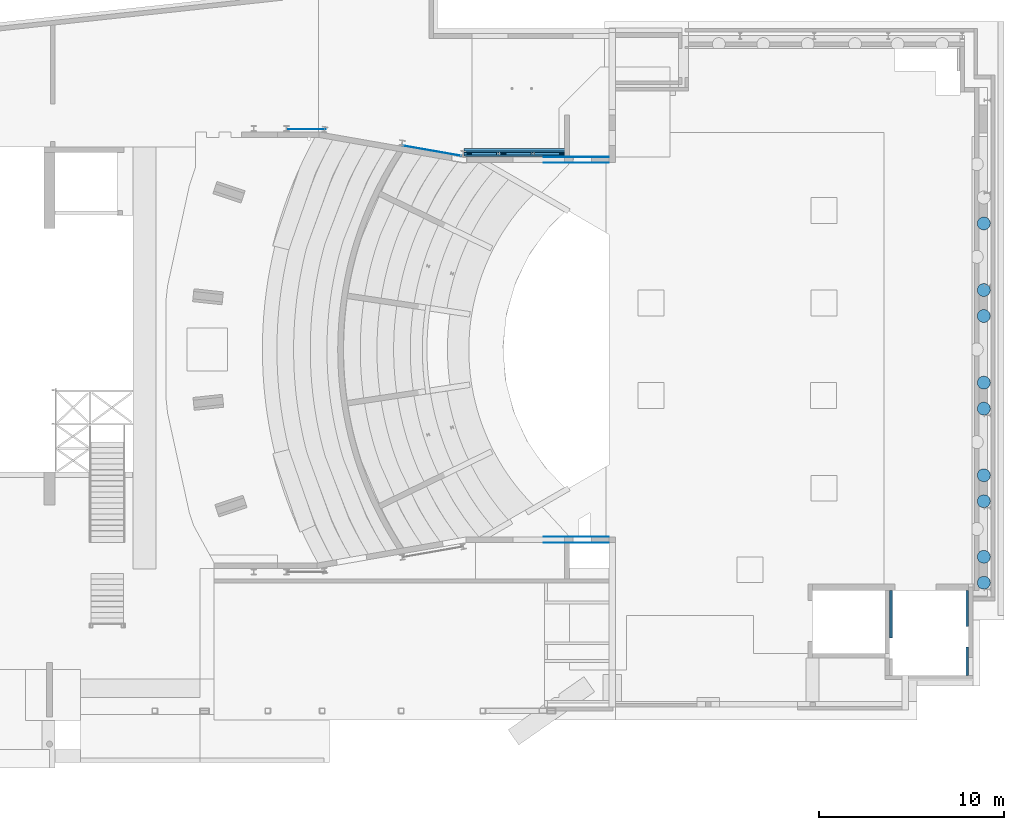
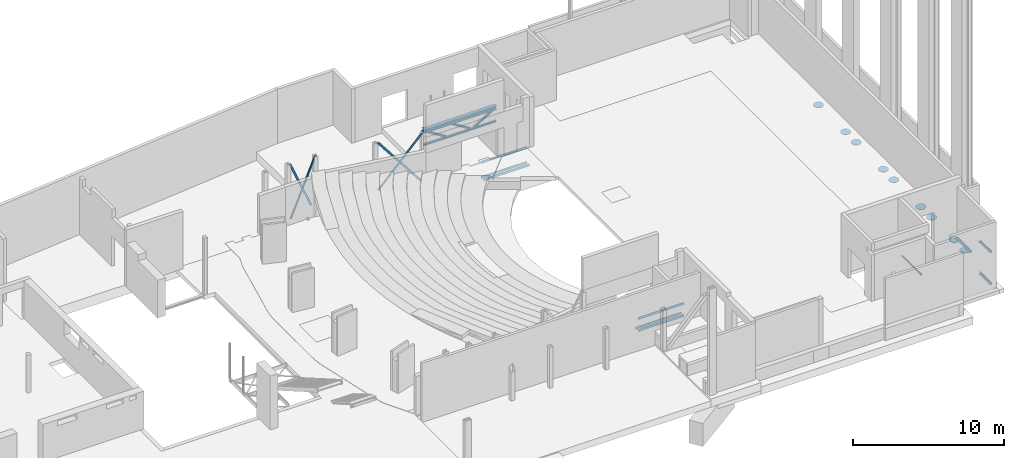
# One storey, part 17 of 34: 28 beams.
"""IFC2X3 building model written with IfcOpenShell, lengths in millimetres."""

from ifc_helpers import new_model, entity, si_unit, converted_unit, derived_unit, direction, frame, frame_2d, origin, origin_2d_with_axis, place, context, subcontext, project, spatial, polyline, circle_curve, parameter, trimmed, segment, composite_curve, rectangle, circle, i_section, outline, extrude, clip, halfspace, bounded_halfspace, source, transform, mapped, material, material_list, type_object, type_shapes, element, save


model = new_model("IFC2X3")

# Units and contexts
model_context = context("Model", 3, precision=0.01, world=origin(), true_north=direction((6.12303176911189e-17, 1.0)))
body_context = subcontext(model_context, "Body", "Model", "MODEL_VIEW")
ifc_project = project(units=[si_unit("LENGTHUNIT", "METRE", prefix="MILLI"), si_unit("AREAUNIT", "SQUARE_METRE", prefix="MILLI"), si_unit("VOLUMEUNIT", "CUBIC_METRE"), converted_unit("PLANEANGLEUNIT", "DEGREE", entity("IfcRatioMeasure", 0.0174532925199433), si_unit("PLANEANGLEUNIT", "RADIAN"), dimensions=[0, 0, 0, 0, 0, 0, 0]), si_unit("MASSUNIT", "GRAM", prefix="KILO"), derived_unit("MASSDENSITYUNIT", [(si_unit("MASSUNIT", "GRAM", prefix="KILO"), 1), (si_unit("LENGTHUNIT", "METRE"), -3)]), derived_unit("MOMENTOFINERTIAUNIT", [(si_unit("LENGTHUNIT", "METRE"), 4)]), si_unit("TIMEUNIT", "SECOND"), si_unit("FREQUENCYUNIT", "HERTZ"), si_unit("THERMODYNAMICTEMPERATUREUNIT", "DEGREE_CELSIUS"), derived_unit("THERMALTRANSMITTANCEUNIT", [(si_unit("MASSUNIT", "GRAM", prefix="KILO"), 1), (si_unit("THERMODYNAMICTEMPERATUREUNIT", "KELVIN"), -1), (si_unit("TIMEUNIT", "SECOND"), -3)]), derived_unit("VOLUMETRICFLOWRATEUNIT", [(si_unit("LENGTHUNIT", "METRE"), 3), (si_unit("TIMEUNIT", "SECOND"), -1)]), si_unit("ELECTRICCURRENTUNIT", "AMPERE"), si_unit("ELECTRICVOLTAGEUNIT", "VOLT"), si_unit("POWERUNIT", "WATT"), si_unit("FORCEUNIT", "NEWTON", prefix="KILO"), si_unit("ILLUMINANCEUNIT", "LUX"), si_unit("LUMINOUSFLUXUNIT", "LUMEN"), si_unit("LUMINOUSINTENSITYUNIT", "CANDELA"), derived_unit("USERDEFINED", [(si_unit("MASSUNIT", "GRAM", prefix="KILO"), -1), (si_unit("LENGTHUNIT", "METRE"), -2), (si_unit("TIMEUNIT", "SECOND"), 3), (si_unit("LUMINOUSFLUXUNIT", "LUMEN"), 1)]), derived_unit("LINEARVELOCITYUNIT", [(si_unit("LENGTHUNIT", "METRE"), 1), (si_unit("TIMEUNIT", "SECOND"), -1)]), si_unit("PRESSUREUNIT", "PASCAL"), derived_unit("USERDEFINED", [(si_unit("LENGTHUNIT", "METRE"), -2), (si_unit("MASSUNIT", "GRAM", prefix="KILO"), 1), (si_unit("TIMEUNIT", "SECOND"), -2)]), derived_unit("LINEARFORCEUNIT", [(si_unit("MASSUNIT", "GRAM", prefix="KILO"), 1), (si_unit("LENGTHUNIT", "METRE"), 1), (si_unit("TIMEUNIT", "SECOND"), -2), (si_unit("LENGTHUNIT", "METRE"), -1)]), derived_unit("PLANARFORCEUNIT", [(si_unit("MASSUNIT", "GRAM", prefix="KILO"), 1), (si_unit("LENGTHUNIT", "METRE"), 1), (si_unit("TIMEUNIT", "SECOND"), -2), (si_unit("LENGTHUNIT", "METRE"), -2)])], contexts=[model_context])

# Site, building, storey
site_placement = place(None, origin())
site = spatial("IfcSite", under=ifc_project, at=site_placement, Name="Theater aan de Parade", CompositionType="ELEMENT")
building_placement = place(site_placement, origin())
building = spatial("IfcBuilding", under=site, at=building_placement, Name="Theater aan de Parade", CompositionType="ELEMENT")
storey_placement = place(building_placement, frame((0.0, 0.0, 3.49116848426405e-09)))
storey = spatial("IfcBuildingStorey", under=building, at=storey_placement, Name="00 begane grond", CompositionType="ELEMENT", Elevation=3.49116848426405e-09)

# Beams
ifc_material_1 = material(Name="00_PBT_MAT_staal_S355")
beam_type_1 = type_object("IfcBeamType", Name="28_PBT_SF_staal_H-profiel:S355_HE140A", PredefinedType="NOTDEFINED")
beam_1_placement = place(storey_placement, frame((65231.5848518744, 43035.0, 3555.0), z_axis=(0.0, 0.0, 1.0), x_axis=(-1.0, 0.0, 0.0)))
element("IfcBeam", 1, at=beam_1_placement, inside=storey, type_object=beam_type_1, material=ifc_material_1, Name="28_PBT_SF_staal_H-profiel:S355_HE140A", ObjectType="28_PBT_SF_staal_H-profiel:S355_HE140A", context=body_context, shape_type="SweptSolid", body=[
    extrude(i_section(OverallWidth=139.999999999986, OverallDepth=133.0, WebThickness=5.50000000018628, FlangeThickness=8.49999999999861, FilletRadius=11.999999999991, at=frame_2d((2.70006239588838e-13, -8.66862137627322e-12), x_axis=(0.0, 1.0))), frame((137.70000000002, 0.0, 0.0), z_axis=(1.0, 0.0, 0.0), x_axis=(0.0, 0.0, -1.0)), (0.0, 0.0, 1.0), 5572.3),
])
beam_2_placement = place(storey_placement, frame((65101.5848518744, 43035.0, 4695.0), z_axis=(-0.522562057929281, 0.0, 0.852601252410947), x_axis=(-0.852601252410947, 0.0, -0.522562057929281)))
element("IfcBeam", 2, at=beam_2_placement, inside=storey, type_object=beam_type_1, material=ifc_material_1, Name="28_PBT_SF_staal_H-profiel:S355_HE140A", ObjectType="28_PBT_SF_staal_H-profiel:S355_HE140A", context=body_context, shape_type="Clipping", body=[
    clip(clip(clip(extrude(outline(composite_curve([segment(polyline([(58.0, -70.0), (66.5000000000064, -70.0)]), True, "CONTINUOUS"), segment(polyline([(66.4999999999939, -70.0), (66.5000000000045, 70.0)]), True, "CONTINUOUS"), segment(polyline([(66.5000000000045, 70.0), (58.0, 70.0)]), True, "CONTINUOUS"), segment(polyline([(58.0, 70.0), (58.0, 14.7499999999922)]), True, "CONTINUOUS"), segment(trimmed(circle_curve(frame_2d((46.0, 14.7499999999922), x_axis=(1.0, 0.0)), 12.0000000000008), [parameter(269.999999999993)], [parameter(0.0)], True, "PARAMETER"), False, "CONTINUOUS"), segment(polyline([(46.0, 2.74999999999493), (-46.0, 2.74999999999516)]), True, "CONTINUOUS"), segment(trimmed(circle_curve(frame_2d((-46.0, 14.7499999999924), x_axis=(0.0, -1.0)), 11.999999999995), [parameter(269.99999999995)], [parameter(0.0)], True, "PARAMETER"), False, "CONTINUOUS"), segment(polyline([(-58.0, 14.7499999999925), (-58.0, 70.0)]), True, "CONTINUOUS"), segment(polyline([(-58.0, 70.0), (-66.4999999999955, 70.0)]), True, "CONTINUOUS"), segment(polyline([(-66.4999999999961, 70.0), (-66.4999999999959, -70.0)]), True, "CONTINUOUS"), segment(polyline([(-66.4999999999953, -70.0), (-58.0, -70.0)]), True, "CONTINUOUS"), segment(polyline([(-58.0, -70.0), (-58.0, -14.7500000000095)]), True, "CONTINUOUS"), segment(trimmed(circle_curve(frame_2d((-46.0, -14.7500000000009), x_axis=(-1.0, 0.0)), 11.9999999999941), [parameter(269.999999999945)], [parameter(0.0)], True, "PARAMETER"), False, "CONTINUOUS"), segment(polyline([(-46.0, -2.75000000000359), (46.0, -2.75000000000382)]), True, "CONTINUOUS"), segment(trimmed(circle_curve(frame_2d((46.0, -14.7500000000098), x_axis=(0.0, 1.0)), 12.0000000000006), [parameter(269.999999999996)], [parameter(0.0)], True, "PARAMETER"), False, "CONTINUOUS"), segment(polyline([(58.0, -14.7500000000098), (58.0, -70.0)]), True, "CONTINUOUS")], self_intersect=False)), frame((216.820213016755, 0.0, 0.0), z_axis=(1.0, 0.0, 0.0), x_axis=(0.0, 0.0, -1.0)), (0.0, 0.0, 1.0), 1845.78723616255), halfspace(frame((540.032132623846, -90.0, -904.642932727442), z_axis=(0.522562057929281, 0.0, -0.852601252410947), x_axis=(0.852601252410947, 0.0, 0.522562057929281)), False)), halfspace(frame((2076.87339336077, -90.0, 5.27237613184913), z_axis=(0.852601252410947, 0.0, 0.522562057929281), x_axis=(-0.522562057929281, 0.0, 0.852601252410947)), False)), halfspace(frame((79.2011556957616, 165.0, -150.847164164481), z_axis=(-0.522562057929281, 0.0, 0.852601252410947), x_axis=(0.852601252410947, 0.0, 0.522562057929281)), False)),
])
beam_3_placement = place(storey_placement, frame((63241.5848518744, 43035.0, 3555.0), z_axis=(0.522562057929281, 0.0, 0.852601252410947), x_axis=(-0.852601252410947, 0.0, 0.522562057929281)))
element("IfcBeam", 3, at=beam_3_placement, inside=storey, type_object=beam_type_1, material=ifc_material_1, Name="28_PBT_SF_staal_H-profiel:S355_HE140A", ObjectType="28_PBT_SF_staal_H-profiel:S355_HE140A", context=body_context, shape_type="Clipping", body=[
    clip(clip(clip(extrude(i_section(OverallWidth=140.000000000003, OverallDepth=133.000000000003, WebThickness=5.49999999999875, FlangeThickness=8.50000000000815, FilletRadius=11.9999999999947, at=frame_2d((1.12123643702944e-11, 0.0), x_axis=(0.0, 1.0))), frame((118.951626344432, 0.0, 0.0), z_axis=(1.0, 0.0, 0.0), x_axis=(0.0, 0.0, -1.0)), (0.0, 0.0, 1.0), 1845.78723616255), halfspace(frame((-1088.58752744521, 165.0, 1804.89359384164), z_axis=(0.522562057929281, 0.0, 0.852601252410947), x_axis=(0.852601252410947, 0.0, -0.522562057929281)), False)), bounded_halfspace(frame((-1551.12370687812, -90.0, 1052.14294939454), z_axis=(-0.522562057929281, 0.0, -0.852601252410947), x_axis=(0.852601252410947, 0.0, -0.522562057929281)), False, frame((118.951626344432, 0.0, 0.0), z_axis=(1.0, 0.0, 0.0), x_axis=(0.0, 0.0, -1.0)), polyline([(58.0, 70.0), (66.4999999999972, 70.0), (66.4999999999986, -70.0), (58.0, -70.0), (58.0, -14.7500000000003), (46.0, -2.74999999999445), (-28.548390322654, -2.74999999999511), (-28.548390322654, 2.75000000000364), (46.0, 2.7500000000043), (58.0, 14.7500000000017), (58.0, 70.0)]))), bounded_halfspace(frame((104.685682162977, 90.0, 5.27237613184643), z_axis=(-0.852601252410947, 0.0, 0.522562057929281), x_axis=(0.522562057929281, 0.0, 0.852601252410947)), False, frame((118.951626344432, 0.0, 0.0), z_axis=(1.0, 0.0, 0.0), x_axis=(0.0, 0.0, -1.0)), polyline([(-46.0, 2.75000000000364), (-28.548390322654, 2.75000000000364), (-28.548390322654, -2.74999999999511), (-46.0, -2.75000000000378), (-58.0, -14.750000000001), (-58.0, -70.0), (-66.4999999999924, -70.0), (-66.4999999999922, 70.0), (-58.0, 70.0), (-58.0, 14.7500000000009), (-46.0, 2.75000000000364)]))),
])
beam_4_placement = place(storey_placement, frame((61381.5848518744, 43035.0, 3555.0), z_axis=(0.524610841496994, 0.0, 0.851342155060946), x_axis=(-0.851342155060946, 0.0, 0.524610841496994)))
element("IfcBeam", 4, at=beam_4_placement, inside=storey, type_object=beam_type_1, material=ifc_material_1, Name="28_PBT_SF_staal_H-profiel:S355_HE140A", ObjectType="28_PBT_SF_staal_H-profiel:S355_HE140A", context=body_context, shape_type="Clipping", body=[
    clip(clip(clip(extrude(i_section(OverallWidth=140.000000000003, OverallDepth=132.999999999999, WebThickness=5.49999999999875, FlangeThickness=8.50000000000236, FilletRadius=11.9999999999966, at=frame_2d((8.4980911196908e-12, 0.0), x_axis=(0.0, 1.0))), frame((119.01993420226, 0.0, 0.0), z_axis=(1.0, 0.0, 0.0), x_axis=(0.0, 0.0, -1.0)), (0.0, 0.0, 1.0), 1837.88635157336), halfspace(frame((-3132.08548754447, -90.0, 2031.646140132), z_axis=(-0.524610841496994, 0.0, -0.851342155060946), x_axis=(0.851342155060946, 0.0, -0.524610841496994)), False)), halfspace(frame((104.698058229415, 90.0, 5.02061779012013), z_axis=(-0.851342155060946, 0.0, 0.524610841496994), x_axis=(0.524610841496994, 0.0, 0.851342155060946)), False)), halfspace(frame((-2667.74046692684, 165.0, 2783.28232328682), z_axis=(0.524610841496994, 0.0, 0.851342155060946), x_axis=(0.851342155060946, 0.0, -0.524610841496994)), False)),
])
beam_type_2 = type_object("IfcBeamType", Name="28_PBT_SF_staal_L-profiel:S355_L150x150x15", PredefinedType="NOTDEFINED")
beam_5_placement = place(storey_placement, frame((86723.499999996, 14850.0, -3.2583520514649e-09), z_axis=(0.0, 0.0, 1.0), x_axis=(0.0, 1.0, 0.0)))
element("IfcBeam", 5, at=beam_5_placement, inside=storey, type_object=beam_type_2, material=ifc_material_1, Name="28_PBT_SF_staal_L-profiel:S355_L150x150x15", ObjectType="28_PBT_SF_staal_L-profiel:S355_L150x150x15", context=body_context, shape_type="SweptSolid", body=[
    extrude(outline(composite_curve([segment(polyline([(-93.3333333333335, -56.6666666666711), (56.6666666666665, -56.6666666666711)]), True, "CONTINUOUS"), segment(polyline([(56.666666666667, -56.6666666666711), (56.666666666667, 93.3333333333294)]), True, "CONTINUOUS"), segment(polyline([(56.666666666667, 93.3333333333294), (49.666666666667, 93.3333333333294)]), True, "CONTINUOUS"), segment(trimmed(circle_curve(frame_2d((49.6666666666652, 85.3333333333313), x_axis=(0.0, 1.0)), 7.99999999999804), [parameter(0.0)], [parameter(90.0000000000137)], True, "PARAMETER"), True, "CONTINUOUS"), segment(polyline([(41.666666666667, 85.3333333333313), (41.666666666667, -25.6666666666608)]), True, "CONTINUOUS"), segment(trimmed(circle_curve(frame_2d((25.6666666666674, -25.6666666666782), x_axis=(1.0, 0.0)), 15.9999999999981), [parameter(269.999999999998)], [parameter(0.0)], True, "PARAMETER"), False, "CONTINUOUS"), segment(polyline([(25.666666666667, -41.6666666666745), (-85.333333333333, -41.6666666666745)]), True, "CONTINUOUS"), segment(trimmed(circle_curve(frame_2d((-85.3333333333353, -49.6666666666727), x_axis=(0.0, 1.0)), 7.99999999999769), [parameter(0.0)], [parameter(90.0000000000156)], True, "PARAMETER"), True, "CONTINUOUS"), segment(polyline([(-93.3333333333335, -49.6666666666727), (-93.3333333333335, -56.6666666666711)]), True, "CONTINUOUS")], self_intersect=False)), frame((0.0, 14.1666666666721, 2441.66666666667), z_axis=(1.0, 0.0, 0.0), x_axis=(0.0, 0.0, -1.0)), (0.0, 0.0, 1.0), 1560.00027248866),
])
beam_6_placement = place(storey_placement, frame((82542.5084217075, 16885.00768692, 0.0), z_axis=(0.0, 0.0, 1.0), x_axis=(0.0, 1.0, 0.0)))
element("IfcBeam", 6, at=beam_6_placement, inside=storey, type_object=beam_type_2, material=ifc_material_1, Name="28_PBT_SF_staal_L-profiel:S355_L150x150x15", ObjectType="28_PBT_SF_staal_L-profiel:S355_L150x150x15", context=body_context, shape_type="SweptSolid", body=[
    extrude(outline(composite_curve([segment(polyline([(49.6666666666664, -93.3333333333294), (56.6666666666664, -93.3333333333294)]), True, "CONTINUOUS"), segment(polyline([(56.6666666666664, -93.3333333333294), (56.6666666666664, 56.6666666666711)]), True, "CONTINUOUS"), segment(polyline([(56.6666666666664, 56.6666666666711), (-93.3333333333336, 56.6666666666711)]), True, "CONTINUOUS"), segment(polyline([(-93.3333333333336, 56.6666666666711), (-93.3333333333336, 49.6666666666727)]), True, "CONTINUOUS"), segment(trimmed(circle_curve(frame_2d((-85.3333333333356, 49.6666666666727), x_axis=(-1.0, 0.0)), 7.99999999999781), [parameter(0.0)], [parameter(90.0000000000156)], True, "PARAMETER"), True, "CONTINUOUS"), segment(polyline([(-85.3333333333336, 41.6666666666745), (25.6666666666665, 41.6666666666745)]), True, "CONTINUOUS"), segment(trimmed(circle_curve(frame_2d((25.6666666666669, 25.6666666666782), x_axis=(0.0, 1.0)), 15.9999999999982), [parameter(269.999999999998)], [parameter(0.0)], True, "PARAMETER"), False, "CONTINUOUS"), segment(polyline([(41.6666666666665, 25.6666666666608), (41.6666666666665, -85.3333333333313)]), True, "CONTINUOUS"), segment(trimmed(circle_curve(frame_2d((49.6666666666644, -85.3333333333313), x_axis=(-1.0, 0.0)), 7.9999999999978), [parameter(0.0)], [parameter(90.0000000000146)], True, "PARAMETER"), True, "CONTINUOUS")], self_intersect=False)), frame((0.0, -14.1666666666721, 856.666666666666), z_axis=(1.0, 0.0, 0.0), x_axis=(0.0, 0.0, -1.0)), (0.0, 0.0, 1.0), 2574.9925566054),
])
beam_7_placement = place(storey_placement, frame((86723.499999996, 17495.00798405, 0.0), z_axis=(0.0, 0.0, 1.0), x_axis=(0.0, 1.0, 0.0)))
element("IfcBeam", 7, at=beam_7_placement, inside=storey, type_object=beam_type_2, material=ifc_material_1, Name="28_PBT_SF_staal_L-profiel:S355_L150x150x15", ObjectType="28_PBT_SF_staal_L-profiel:S355_L150x150x15", context=body_context, shape_type="SweptSolid", body=[
    extrude(outline(composite_curve([segment(polyline([(-93.3333333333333, -56.6666666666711), (56.6666666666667, -56.6666666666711)]), True, "CONTINUOUS"), segment(polyline([(56.6666666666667, -56.6666666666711), (56.6666666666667, 93.3333333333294)]), True, "CONTINUOUS"), segment(polyline([(56.6666666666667, 93.3333333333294), (49.6666666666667, 93.3333333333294)]), True, "CONTINUOUS"), segment(trimmed(circle_curve(frame_2d((49.6666666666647, 85.3333333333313), x_axis=(0.0, 1.0)), 7.9999999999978), [parameter(0.0)], [parameter(90.0000000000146)], True, "PARAMETER"), True, "CONTINUOUS"), segment(polyline([(41.6666666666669, 85.3333333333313), (41.6666666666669, -25.6666666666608)]), True, "CONTINUOUS"), segment(trimmed(circle_curve(frame_2d((25.6666666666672, -25.6666666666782), x_axis=(1.0, 0.0)), 15.9999999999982), [parameter(269.999999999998)], [parameter(0.0)], True, "PARAMETER"), False, "CONTINUOUS"), segment(polyline([(25.6666666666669, -41.6666666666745), (-85.3333333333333, -41.6666666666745)]), True, "CONTINUOUS"), segment(trimmed(circle_curve(frame_2d((-85.3333333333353, -49.6666666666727), x_axis=(0.0, 1.0)), 7.99999999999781), [parameter(0.0)], [parameter(90.0000000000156)], True, "PARAMETER"), True, "CONTINUOUS"), segment(polyline([(-93.3333333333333, -49.6666666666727), (-93.3333333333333, -56.6666666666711)]), True, "CONTINUOUS")], self_intersect=False)), frame((0.0, 14.1666666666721, 856.666666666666), z_axis=(1.0, 0.0, 0.0), x_axis=(0.0, 0.0, -1.0)), (0.0, 0.0, 1.0), 1964.99225947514),
])
beam_8_placement = place(storey_placement, frame((86723.4999999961, 14850.0, 0.0), z_axis=(0.0, 0.0, 1.0), x_axis=(0.0, 1.0, 0.0)))
element("IfcBeam", 8, at=beam_8_placement, inside=storey, type_object=beam_type_2, material=ifc_material_1, Name="28_PBT_SF_staal_L-profiel:S355_L150x150x15", ObjectType="28_PBT_SF_staal_L-profiel:S355_L150x150x15", context=body_context, shape_type="SweptSolid", body=[
    extrude(outline(composite_curve([segment(polyline([(-93.3333333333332, -56.6666666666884), (56.6666666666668, -56.6666666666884)]), True, "CONTINUOUS"), segment(polyline([(56.6666666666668, -56.6666666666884), (56.6666666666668, 93.3333333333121)]), True, "CONTINUOUS"), segment(polyline([(56.6666666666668, 93.3333333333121), (49.6666666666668, 93.3333333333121)]), True, "CONTINUOUS"), segment(trimmed(circle_curve(frame_2d((49.6666666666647, 85.3333333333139), x_axis=(0.0, 1.0)), 7.99999999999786), [parameter(0.0)], [parameter(90.0000000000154)], True, "PARAMETER"), True, "CONTINUOUS"), segment(polyline([(41.6666666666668, 85.3333333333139), (41.6666666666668, -25.6666666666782)]), True, "CONTINUOUS"), segment(trimmed(circle_curve(frame_2d((25.6666666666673, -25.6666666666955), x_axis=(1.0, 0.0)), 15.9999999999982), [parameter(269.999999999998)], [parameter(0.0)], True, "PARAMETER"), False, "CONTINUOUS"), segment(polyline([(25.6666666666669, -41.6666666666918), (-85.3333333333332, -41.6666666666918)]), True, "CONTINUOUS"), segment(trimmed(circle_curve(frame_2d((-85.3333333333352, -49.66666666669), x_axis=(0.0, 1.0)), 7.99999999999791), [parameter(0.0)], [parameter(90.0000000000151)], True, "PARAMETER"), True, "CONTINUOUS"), segment(polyline([(-93.3333333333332, -49.66666666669), (-93.3333333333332, -56.6666666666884)]), True, "CONTINUOUS")], self_intersect=False)), frame((0.0, 14.1666666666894, -143.333333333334), z_axis=(1.0, 0.0, 0.0), x_axis=(0.0, 0.0, -1.0)), (0.0, 0.0, 1.0), 1560.00027248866),
])
ifc_material_2 = material(Name="00_PBT_MAT_staal")
beam_type_3 = type_object("IfcBeamType", Name="28_PBT_SF_staal_strip:strip 10x150", PredefinedType="NOTDEFINED")
beam_9_placement = place(storey_placement, frame((56307.1553972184, 43453.816764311, 751.175246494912), z_axis=(0.789536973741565, 0.0834799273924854, -0.607998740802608), x_axis=(0.613702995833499, -0.107398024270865, 0.782198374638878)))
element("IfcBeam", 9, at=beam_9_placement, inside=storey, type_object=beam_type_3, material=ifc_material_2, Name="28_PBT_SF_staal_strip:strip 10x150", ObjectType="28_PBT_SF_staal_strip:strip 10x150", context=body_context, shape_type="SweptSolid", body=[
    extrude(rectangle(XDim=149.999999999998, YDim=10.0000000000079, at=frame_2d((-4.26725321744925e-12, -8.31335000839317e-13), x_axis=(0.0, 1.0))), frame((0.0, 0.0, 0.0), z_axis=(1.0, 0.0, 0.0), x_axis=(0.0, -0.975874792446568, 0.218330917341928)), (0.0, 0.0, 1.0), 4933.30485737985),
])
beam_10_placement = place(storey_placement, frame((59293.1542601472, 42931.2669632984, 792.65606278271), z_axis=(0.788580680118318, 0.0839160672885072, 0.609178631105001), x_axis=(-0.614931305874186, 0.107612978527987, 0.781203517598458)))
element("IfcBeam", 10, at=beam_10_placement, inside=storey, type_object=beam_type_3, material=ifc_material_2, Name="28_PBT_SF_staal_strip:strip 10x150", ObjectType="28_PBT_SF_staal_strip:strip 10x150", context=body_context, shape_type="SweptSolid", body=[
    extrude(rectangle(XDim=150.000000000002, YDim=9.99999999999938, at=frame_2d((-1.75504055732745e-12, 8.53317416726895e-12), x_axis=(1.0, 0.0))), frame((0.0, 0.0, 0.0), z_axis=(1.0, 0.0, 0.0), x_axis=(0.0, 0.218595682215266, 0.975815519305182)), (0.0, 0.0, 1.0), 4886.73625394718),
])
beam_11_placement = place(storey_placement, frame((50029.673762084, 44343.6261871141, -203.558706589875), z_axis=(0.922249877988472, 0.0, -0.386594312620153), x_axis=(0.386594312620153, 0.0, 0.922249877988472)))
element("IfcBeam", 11, at=beam_11_placement, inside=storey, type_object=beam_type_3, material=ifc_material_2, Name="28_PBT_SF_staal_strip:strip 10x150", ObjectType="28_PBT_SF_staal_strip:strip 10x150", context=body_context, shape_type="SweptSolid", body=[
    extrude(rectangle(XDim=150.000000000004, YDim=9.99999999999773, at=origin_2d_with_axis()), frame((266.79349451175, 0.0, 0.0), z_axis=(1.0, 0.0, 0.0), x_axis=(0.0, 0.0, -1.0)), (0.0, 0.0, 1.0), 4842.98624666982),
])
beam_12_placement = place(storey_placement, frame((52041.7975438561, 44343.6261871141, -203.558706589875), z_axis=(0.922249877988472, 0.0, 0.386594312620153), x_axis=(-0.386594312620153, 0.0, 0.922249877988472)))
element("IfcBeam", 12, at=beam_12_placement, inside=storey, type_object=beam_type_3, material=ifc_material_2, Name="28_PBT_SF_staal_strip:strip 10x150", ObjectType="28_PBT_SF_staal_strip:strip 10x150", context=body_context, shape_type="SweptSolid", body=[
    extrude(rectangle(XDim=150.000000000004, YDim=9.99999999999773, at=frame_2d((-1.4210854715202e-14, 0.0), x_axis=(1.0, 0.0))), frame((894.336748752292, 0.0, 0.0), z_axis=(1.0, 0.0, 0.0), x_axis=(0.0, 0.0, -1.0)), (0.0, 0.0, 1.0), 4215.44299242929),
])
ifc_material_3 = material(Name="00_PBT_MAT_Lucht")
ifc_material_list = material_list([ifc_material_3, ifc_material_1])
beam_type_4 = type_object("IfcBeamType", Name="28_PBT_SF_staal_H-profiel_met_ondergelaste_strip (void):S355_HE300A + ondergelaste strip d=12", PredefinedType="BEAM", material=ifc_material_list)
shared_shape_1 = source(origin(), body_context, "Body", "SweptSolid", [
    extrude(i_section(OverallWidth=299.999999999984, OverallDepth=290.0, WebThickness=8.50000000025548, FlangeThickness=13.999999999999, FilletRadius=26.9999999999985, at=frame_2d((-2.70006239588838e-13, 0.0), x_axis=(0.0, 1.0))), frame((65093.8848518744, 43035.0, 4700.0), z_axis=(-1.0, 0.0, 0.0), x_axis=(0.0, 0.0, -1.0)), (0.0, 0.0, 1.0), 5572.29999999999),
    extrude(rectangle(XDim=9.99999999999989, YDim=420.0, at=frame_2d((-2.70894418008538e-13, -1.30029320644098e-11), x_axis=(1.0, 0.0))), frame((65092.8848518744, 43100.0, 4550.0), z_axis=(-1.0, 0.0, 0.0), x_axis=(0.0, 0.0, -1.0)), (0.0, 0.0, 1.0), 5570.29999999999),
])
type_shapes(beam_type_4, [shared_shape_1])
beam_13_placement = place(storey_placement, frame((0.0, 0.0, -3.49116848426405e-09)))
element("IfcBeam", 13, at=beam_13_placement, inside=storey, type_object=beam_type_4, material=ifc_material_1, Name="28_PBT_SF_staal_H-profiel_met_ondergelaste_strip (void):S355_HE300A + ondergelaste strip d=12", ObjectType="28_PBT_SF_staal_H-profiel_met_ondergelaste_strip (void):S355_HE300A + ondergelaste strip d=12", context=body_context, shape_type="MappedRepresentation", body=[
    mapped(shared_shape_1, transform((0.0, 0.0, 0.0), scale=1.0)),
])
beam_type_5 = type_object("IfcBeamType", Name="28_PBT_SF_staal_krans:28_PBT_SF_staal_krans_d=700_323.9", PredefinedType="BEAM", material=ifc_material_1)
shared_shape_2 = source(origin(), body_context, "Body", "SweptSolid", [
    clip(extrude(rectangle(XDim=150.000000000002, YDim=15.0, at=frame_2d((-7.105427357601e-15, -4.44089209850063e-15), x_axis=(1.0, 0.0))), frame((-118.475000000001, -205.204719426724, -175.0), z_axis=(0.0, 0.0, 1.0), x_axis=(0.499999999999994, 0.866025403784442, 0.0)), (0.0, 0.0, 1.0), 149.999999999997), halfspace(frame((-162.470190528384, -266.406624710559, -75.0), z_axis=(-0.277350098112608, -0.480384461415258, -0.832050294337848), x_axis=(0.866025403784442, -0.499999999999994, 0.0)), False)),
    clip(extrude(rectangle(XDim=150.000000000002, YDim=15.0, at=origin_2d_with_axis()), frame((118.474999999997, 205.204719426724, -175.0), z_axis=(0.0, 0.0, 1.0), x_axis=(0.499999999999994, 0.866025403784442, 0.0)), (0.0, 0.0, 1.0), 149.999999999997), halfspace(frame((149.479809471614, 273.906624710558, -75.0), z_axis=(0.277350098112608, 0.480384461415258, -0.832050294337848), x_axis=(0.866025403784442, -0.499999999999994, 0.0)), False)),
    clip(extrude(rectangle(XDim=150.000000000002, YDim=15.0, at=frame_2d((2.1316282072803e-14, 3.99680288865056e-15), x_axis=(1.0, 0.0))), frame((-118.475, 205.204719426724, -175.0), z_axis=(0.0, 0.0, 1.0), x_axis=(-0.499999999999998, 0.86602540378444, 0.0)), (0.0, 0.0, 1.0), 149.999999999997), halfspace(frame((-162.470190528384, 266.406624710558, -75.0), z_axis=(-0.277350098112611, 0.480384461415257, -0.832050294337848), x_axis=(0.86602540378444, 0.499999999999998, 0.0)), False)),
    clip(extrude(rectangle(XDim=150.000000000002, YDim=15.0, at=frame_2d((-2.1316282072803e-14, 4.44089209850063e-15), x_axis=(1.0, 0.0))), frame((118.475, -205.204719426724, -175.0), z_axis=(0.0, 0.0, 1.0), x_axis=(-0.499999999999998, 0.86602540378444, 0.0)), (0.0, 0.0, 1.0), 149.999999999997), halfspace(frame((149.479809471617, -273.906624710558, -75.0), z_axis=(0.277350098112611, -0.480384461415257, -0.832050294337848), x_axis=(0.86602540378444, 0.499999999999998, 0.0)), False)),
    clip(extrude(rectangle(XDim=15.0, YDim=150.000000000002, at=frame_2d((0.0, -1.4210854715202e-14), x_axis=(1.0, 0.0))), frame((236.950000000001, 0.0, -175.0), z_axis=(0.0, 0.0, 1.0), x_axis=(0.0, -1.0, 0.0)), (0.0, 0.0, 1.0), 149.999999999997), halfspace(frame((311.950000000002, -7.5, -75.0), z_axis=(0.554700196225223, 0.0, -0.832050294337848), x_axis=(0.0, 1.0, 0.0)), False)),
    clip(extrude(rectangle(XDim=15.0, YDim=150.000000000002, at=frame_2d((0.0, 1.4210854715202e-14), x_axis=(1.0, 0.0))), frame((-236.950000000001, 0.0, -175.0), z_axis=(0.0, 0.0, 1.0), x_axis=(0.0, -1.0, 0.0)), (0.0, 0.0, 1.0), 149.999999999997), halfspace(frame((-311.950000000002, -7.5, -75.0), z_axis=(-0.554700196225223, 0.0, -0.832050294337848), x_axis=(0.0, 1.0, 0.0)), False)),
    extrude(circle(Radius=350.0, at=frame_2d((6.76791955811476e-14, 5.85105723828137e-13), x_axis=(1.0, 0.0))), frame((0.0, 0.0, -25.0), z_axis=(0.0, 0.0, 1.0), x_axis=(-1.0, 0.0, 0.0)), (0.0, 0.0, 1.0), 25.0),
])
type_shapes(beam_type_5, [shared_shape_2])
for number, where, z_axis, x_axis in (
    (14, (87590.0, 34270.0, -740.0), (0.0, 0.0, 1.0), (-1.0, 0.0, 0.0)),
    (15, (87590.0, 35670.0, -740.0), (0.0, 0.0, 1.0), (-1.0, 0.0, 0.0)),
    (16, (87590.0, 39265.0, -740.0), (0.0, 0.0, 1.0), (-1.0, 0.0, 0.0)),
    (17, (87590.0, 30670.0, -740.0), (0.0, 0.0, 1.0), (-1.0, 0.0, 0.0)),
    (18, (87590.0, 29270.0, -740.0), (0.0, 0.0, 1.0), (-1.0, 0.0, 0.0)),
    (19, (87590.0, 25670.0, -740.0), (0.0, 0.0, 1.0), (-1.0, 0.0, 0.0)),
    (20, (87590.0, 24270.0, -740.0), (0.0, 0.0, 1.0), (-1.0, 0.0, 0.0)),
    (21, (87590.0, 21270.0, -740.0), (0.0, 0.0, 1.0), (-1.0, 0.0, 0.0)),
    (22, (87590.0, 19870.0, -740.0), (0.0, 0.0, 1.0), (-1.0, 0.0, 0.0)),
):
    element("IfcBeam", number, at=place(storey_placement, frame(where, z_axis=z_axis, x_axis=x_axis)), inside=storey, type_object=beam_type_5, material=ifc_material_1, Name="28_PBT_SF_staal_krans:28_PBT_SF_staal_krans_d=700_323.9", ObjectType="28_PBT_SF_staal_krans:28_PBT_SF_staal_krans_d=700_323.9", context=body_context, shape_type="MappedRepresentation", body=[
        mapped(shared_shape_2, transform((0.0, 0.0, 0.0), scale=1.0)),
    ])
beam_type_6 = type_object("IfcBeamType", Name="28_PBT_SF_staal_strip:trekstrip 20x200", PredefinedType="NOTDEFINED")
beam_14_placement = place(storey_placement, frame((63839.0610079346, 42550.0, -3.25510345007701e-09)))
element("IfcBeam", 23, at=beam_14_placement, inside=storey, type_object=beam_type_6, material=ifc_material_2, Name="28_PBT_SF_staal_strip:trekstrip 20x200", ObjectType="28_PBT_SF_staal_strip:trekstrip 20x200", context=body_context, shape_type="SweptSolid", body=[
    extrude(rectangle(XDim=200.0, YDim=19.9999999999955, at=frame_2d((-3.5527136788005e-14, -1.29944055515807e-10), x_axis=(1.0, 0.0))), frame((0.0, -10.0, -500.0), z_axis=(1.0, 0.0, 0.0), x_axis=(0.0, 0.0, -1.0)), (0.0, 0.0, 1.0), 3517.19509302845),
])
beam_15_placement = place(storey_placement, frame((63839.0610079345, 42850.0, -3.25510345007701e-09)))
element("IfcBeam", 24, at=beam_15_placement, inside=storey, type_object=beam_type_6, material=ifc_material_2, Name="28_PBT_SF_staal_strip:trekstrip 20x200", ObjectType="28_PBT_SF_staal_strip:trekstrip 20x200", context=body_context, shape_type="SweptSolid", body=[
    extrude(rectangle(XDim=200.0, YDim=19.9999999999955, at=frame_2d((-3.5527136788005e-14, -8.66240412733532e-12), x_axis=(1.0, 0.0))), frame((0.0, 10.0, -500.0), z_axis=(1.0, 0.0, 0.0), x_axis=(0.0, 0.0, -1.0)), (0.0, 0.0, 1.0), 3517.19509302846),
])
beam_16_placement = place(storey_placement, frame((63839.0610079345, 42850.0, -3.25510345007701e-09)))
element("IfcBeam", 25, at=beam_16_placement, inside=storey, type_object=beam_type_6, material=ifc_material_2, Name="28_PBT_SF_staal_strip:trekstrip 20x200", ObjectType="28_PBT_SF_staal_strip:trekstrip 20x200", context=body_context, shape_type="SweptSolid", body=[
    extrude(rectangle(XDim=200.0, YDim=19.9999999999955, at=frame_2d((7.105427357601e-14, -8.66240412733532e-12), x_axis=(1.0, 0.0))), frame((0.0, 10.0, 725.0), z_axis=(1.0, 0.0, 0.0), x_axis=(0.0, 0.0, -1.0)), (0.0, 0.0, 1.0), 3517.19509302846),
])
beam_17_placement = place(storey_placement, frame((63839.0610079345, 22340.0, -3.25510345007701e-09)))
element("IfcBeam", 26, at=beam_17_placement, inside=storey, type_object=beam_type_6, material=ifc_material_2, Name="28_PBT_SF_staal_strip:trekstrip 20x200", ObjectType="28_PBT_SF_staal_strip:trekstrip 20x200", context=body_context, shape_type="SweptSolid", body=[
    extrude(rectangle(XDim=200.0, YDim=20.0000000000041, at=frame_2d((-2.8421709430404e-14, -1.38607347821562e-10), x_axis=(1.0, 0.0))), frame((0.0, 10.0, -250.0), z_axis=(1.0, 0.0, 0.0), x_axis=(0.0, 0.0, -1.0)), (0.0, 0.0, 1.0), 3517.19509302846),
])
beam_18_placement = place(storey_placement, frame((63839.0610079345, 22040.0, -3.25510345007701e-09)))
element("IfcBeam", 27, at=beam_18_placement, inside=storey, type_object=beam_type_6, material=ifc_material_2, Name="28_PBT_SF_staal_strip:trekstrip 20x200", ObjectType="28_PBT_SF_staal_strip:trekstrip 20x200", context=body_context, shape_type="SweptSolid", body=[
    extrude(rectangle(XDim=200.0, YDim=19.9999999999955, at=frame_2d((-2.8421709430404e-14, 6.49702514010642e-12), x_axis=(1.0, 0.0))), frame((0.0, -10.0, -250.0), z_axis=(1.0, 0.0, 0.0), x_axis=(0.0, 0.0, -1.0)), (0.0, 0.0, 1.0), 3517.19509302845),
])
beam_19_placement = place(storey_placement, frame((63839.0610079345, 22040.0, -3.25510345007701e-09)))
element("IfcBeam", 28, at=beam_19_placement, inside=storey, type_object=beam_type_6, material=ifc_material_2, Name="28_PBT_SF_staal_strip:trekstrip 20x200", ObjectType="28_PBT_SF_staal_strip:trekstrip 20x200", context=body_context, shape_type="SweptSolid", body=[
    extrude(rectangle(XDim=200.0, YDim=19.9999999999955, at=frame_2d((6.3948846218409e-14, 6.49702514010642e-12), x_axis=(1.0, 0.0))), frame((0.0, -10.0, 725.0), z_axis=(1.0, 0.0, 0.0), x_axis=(0.0, 0.0, -1.0)), (0.0, 0.0, 1.0), 3517.19509302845),
])

save(model, "model.ifc")
